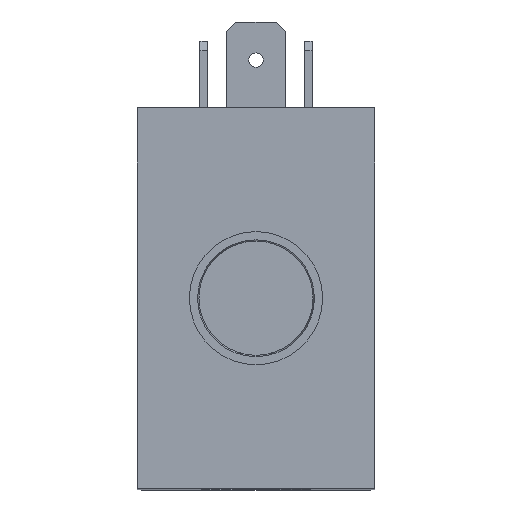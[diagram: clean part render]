
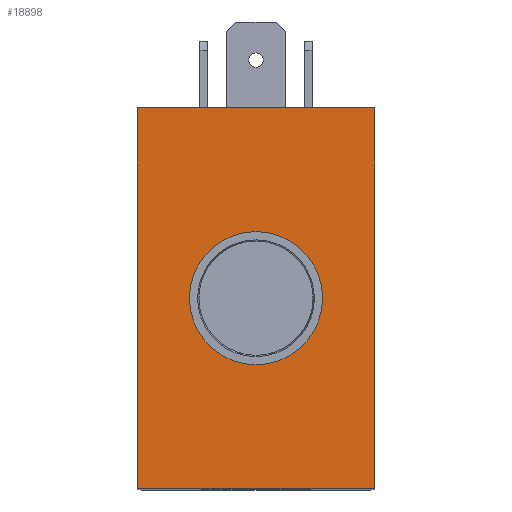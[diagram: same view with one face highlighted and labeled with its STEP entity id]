
A CAD part, top view. The second image highlights one B-rep face of the part: STEP entity #18898.
In plain terms, the highlighted planar face has unit normal (0, 0, 1).
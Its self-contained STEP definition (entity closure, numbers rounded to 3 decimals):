
#61 = EDGE_LOOP ( 'NONE', ( #22112, #22118, #22120, #22116 ) ) ;
#69 = EDGE_LOOP ( 'NONE', ( #22124 ) ) ;
#408 = LINE ( 'NONE', #1312, #409 ) ;
#409 = VECTOR ( 'NONE', #1313, 1000. ) ;
#700 = CARTESIAN_POINT ( 'NONE',  ( 12.5, -20., 74. ) ) ;
#721 = CARTESIAN_POINT ( 'NONE',  ( -12.5, 20., 74. ) ) ;
#728 = CARTESIAN_POINT ( 'NONE',  ( -12.5, -20., 74. ) ) ;
#894 = CARTESIAN_POINT ( 'NONE',  ( 12.5, 20., 74. ) ) ;
#1312 = CARTESIAN_POINT ( 'NONE',  ( -12.5, -20., 74. ) ) ;
#1313 = DIRECTION ( 'NONE',  ( 0., 1., 0. ) ) ;
#6835 = AXIS2_PLACEMENT_3D ( 'NONE', #7822, #7825, #7827 ) ;
#7822 = CARTESIAN_POINT ( 'NONE',  ( 0., 0., 74. ) ) ;
#7823 = PLANE ( 'NONE',  #6835 ) ;
#7825 = DIRECTION ( 'NONE',  ( 0., 0., 1. ) ) ;
#7827 = DIRECTION ( 'NONE',  ( 0.707, 0.707, 0. ) ) ;
#9521 = FACE_OUTER_BOUND ( 'NONE', #61, .T. ) ;
#9533 = FACE_BOUND ( 'NONE', #69, .T. ) ;
#10463 = AXIS2_PLACEMENT_3D ( 'NONE', #12145, #12150, #12151 ) ;
#10847 = VERTEX_POINT ( 'NONE', #700 ) ;
#10868 = VERTEX_POINT ( 'NONE', #721 ) ;
#10875 = VERTEX_POINT ( 'NONE', #728 ) ;
#11041 = VERTEX_POINT ( 'NONE', #894 ) ;
#12143 = CARTESIAN_POINT ( 'NONE',  ( -12.5, 20., 74. ) ) ;
#12144 = DIRECTION ( 'NONE',  ( 1., 0., 0. ) ) ;
#12145 = CARTESIAN_POINT ( 'NONE',  ( 0., 0., 74. ) ) ;
#12150 = DIRECTION ( 'NONE',  ( 0., 0., -1. ) ) ;
#12151 = DIRECTION ( 'NONE',  ( -1., 0., 0. ) ) ;
#12152 = CARTESIAN_POINT ( 'NONE',  ( 12.5, 20., 74. ) ) ;
#12153 = DIRECTION ( 'NONE',  ( 0., -1., 0. ) ) ;
#12155 = CARTESIAN_POINT ( 'NONE',  ( 12.5, -20., 74. ) ) ;
#12156 = DIRECTION ( 'NONE',  ( -1., 0., 0. ) ) ;
#12645 = LINE ( 'NONE', #12143, #12658 ) ;
#12658 = VECTOR ( 'NONE', #12144, 1000. ) ;
#12659 = LINE ( 'NONE', #12155, #12667 ) ;
#12662 = LINE ( 'NONE', #12152, #12664 ) ;
#12664 = VECTOR ( 'NONE', #12153, 1000. ) ;
#12665 = CIRCLE ( 'NONE', #10463, 7. ) ;
#12667 = VECTOR ( 'NONE', #12156, 1000. ) ;
#17887 = VERTEX_POINT ( 'NONE', #17888 ) ;
#17888 = CARTESIAN_POINT ( 'NONE',  ( -7., 0., 74. ) ) ;
#18386 = EDGE_CURVE ( 'NONE', #10875, #10868, #408, .T. ) ;
#18898 = ADVANCED_FACE ( 'NONE', ( #9521, #9533 ), #7823, .T. ) ;
#19354 = EDGE_CURVE ( 'NONE', #10868, #11041, #12645, .T. ) ;
#19357 = EDGE_CURVE ( 'NONE', #17887, #17887, #12665, .T. ) ;
#19358 = EDGE_CURVE ( 'NONE', #11041, #10847, #12662, .T. ) ;
#19359 = EDGE_CURVE ( 'NONE', #10847, #10875, #12659, .T. ) ;
#22112 = ORIENTED_EDGE ( 'NONE', *, *, #18386, .F. ) ;
#22116 = ORIENTED_EDGE ( 'NONE', *, *, #19354, .F. ) ;
#22118 = ORIENTED_EDGE ( 'NONE', *, *, #19359, .F. ) ;
#22120 = ORIENTED_EDGE ( 'NONE', *, *, #19358, .F. ) ;
#22124 = ORIENTED_EDGE ( 'NONE', *, *, #19357, .T. ) ;
